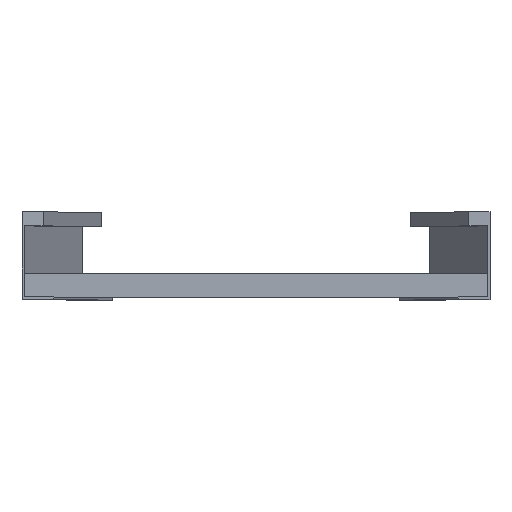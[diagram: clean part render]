
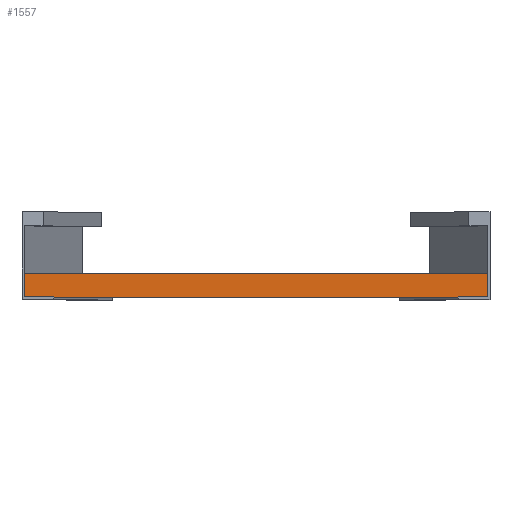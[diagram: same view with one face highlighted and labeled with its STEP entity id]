
A CAD part, top view. The second image highlights one B-rep face of the part: STEP entity #1557.
In plain terms, the highlighted planar face has unit normal (0, 0, 1).
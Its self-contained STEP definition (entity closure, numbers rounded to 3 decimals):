
#55 = PLANE ( 'NONE',  #1306 ) ;
#169 = CARTESIAN_POINT ( 'NONE',  ( 198., 0., 20.25 ) ) ;
#380 = DIRECTION ( 'NONE',  ( 0., -1., 0. ) ) ;
#675 = LINE ( 'NONE', #2564, #1774 ) ;
#696 = CARTESIAN_POINT ( 'NONE',  ( 198., 20., 20.25 ) ) ;
#781 = VECTOR ( 'NONE', #380, 1000. ) ;
#900 = CARTESIAN_POINT ( 'NONE',  ( -198., 20., 20.25 ) ) ;
#984 = DIRECTION ( 'NONE',  ( 0., 1., 0. ) ) ;
#1016 = DIRECTION ( 'NONE',  ( -1., 0., 0. ) ) ;
#1249 = DIRECTION ( 'NONE',  ( 0., 0., -1. ) ) ;
#1306 = AXIS2_PLACEMENT_3D ( 'NONE', #1370, #1249, #984 ) ;
#1328 = DIRECTION ( 'NONE',  ( -1., 0., 0. ) ) ;
#1370 = CARTESIAN_POINT ( 'NONE',  ( 198., 20., 20.25 ) ) ;
#1390 = VECTOR ( 'NONE', #1328, 1000. ) ;
#1557 = ADVANCED_FACE ( 'NONE', ( #3096 ), #55, .F. ) ;
#1728 = ORIENTED_EDGE ( 'NONE', *, *, #3649, .F. ) ;
#1774 = VECTOR ( 'NONE', #1016, 1000. ) ;
#1879 = LINE ( 'NONE', #900, #3950 ) ;
#1984 = CARTESIAN_POINT ( 'NONE',  ( 198., 20., 20.25 ) ) ;
#2112 = VERTEX_POINT ( 'NONE', #3017 ) ;
#2174 = DIRECTION ( 'NONE',  ( 0., -1., 0. ) ) ;
#2181 = EDGE_LOOP ( 'NONE', ( #3824, #1728, #2306, #2417 ) ) ;
#2223 = LINE ( 'NONE', #1984, #781 ) ;
#2306 = ORIENTED_EDGE ( 'NONE', *, *, #2928, .F. ) ;
#2417 = ORIENTED_EDGE ( 'NONE', *, *, #3662, .T. ) ;
#2526 = LINE ( 'NONE', #696, #1390 ) ;
#2564 = CARTESIAN_POINT ( 'NONE',  ( 198., 0., 20.25 ) ) ;
#2928 = EDGE_CURVE ( 'NONE', #3395, #2980, #2223, .T. ) ;
#2966 = VERTEX_POINT ( 'NONE', #3802 ) ;
#2980 = VERTEX_POINT ( 'NONE', #169 ) ;
#3017 = CARTESIAN_POINT ( 'NONE',  ( -198., 0., 20.25 ) ) ;
#3096 = FACE_OUTER_BOUND ( 'NONE', #2181, .T. ) ;
#3119 = EDGE_CURVE ( 'NONE', #2966, #2112, #1879, .T. ) ;
#3276 = CARTESIAN_POINT ( 'NONE',  ( 198., 20., 20.25 ) ) ;
#3395 = VERTEX_POINT ( 'NONE', #3276 ) ;
#3649 = EDGE_CURVE ( 'NONE', #2980, #2112, #675, .T. ) ;
#3662 = EDGE_CURVE ( 'NONE', #3395, #2966, #2526, .T. ) ;
#3802 = CARTESIAN_POINT ( 'NONE',  ( -198., 20., 20.25 ) ) ;
#3824 = ORIENTED_EDGE ( 'NONE', *, *, #3119, .T. ) ;
#3950 = VECTOR ( 'NONE', #2174, 1000. ) ;
